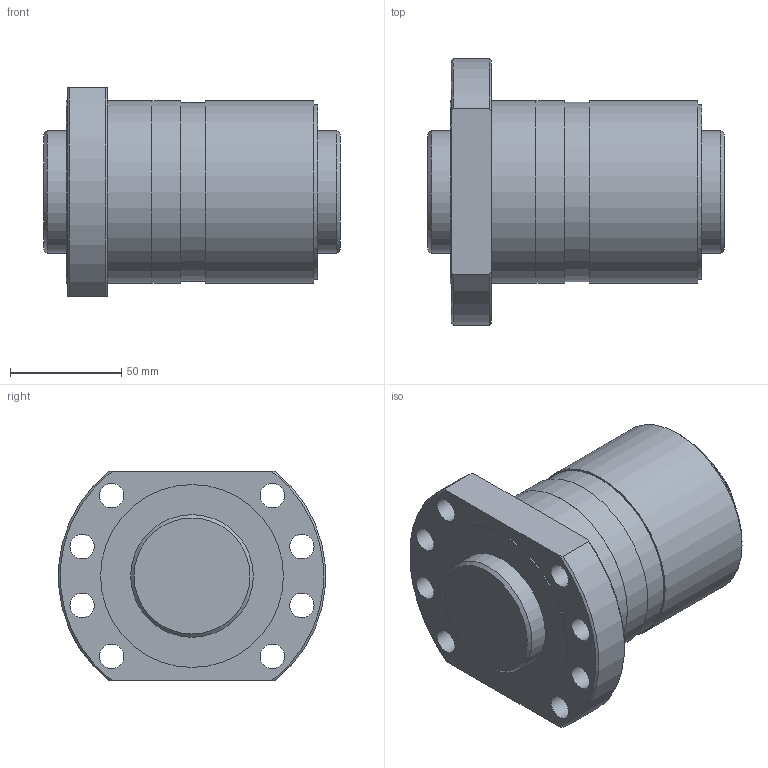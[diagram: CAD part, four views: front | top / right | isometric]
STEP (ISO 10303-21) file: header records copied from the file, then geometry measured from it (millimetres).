
FILE_DESCRIPTION(/* description */ ('STEP AP203'),/* implementation_level */ '2;1');
FILE_NAME(/* name */ 'SDAN5510VAX-4G0+133LC0(0G000)',/* time_stamp */ '2024-07-04T10:21:23+02:00',/* author */ ('License CC BY-ND 4.0'),/* organization */ ('CADENAS'),/* preprocessor_version */ 'ST-DEVELOPER v19.3',/* originating_system */ 'PARTsolutions',/* authorisation */ ' ');
FILE_SCHEMA (('CONFIG_CONTROL_DESIGN','FEATURE_BASED_PROCESS_PLANNING','TECHNICAL_DATA_PACKAGING','INTEGRATED_CNC_SCHEMA','PROCESS_PLANNING_SCHEMA'));
Length unit declared in the file: millimetre
Products named in the file (3): SDAN5510VAX-4G0+133LC0(0G000); 0SDAN5510VAX-40Shaft; SDAN5510VAX-4_nut
Assembly tree (2 placements, depth 2):
  SDAN5510VAX-4G0+133LC0(0G000)
    0SDAN5510VAX-40Shaft
    SDAN5510VAX-4_nut
Bounding box: 133 x 119.6 x 94 mm (x, y, z)
Volume: 710450.9 mm3; surface area: 97918.8 mm2
Topology: 2 solids, 2 shells, 41 faces, 95 edges, 65 vertices
Faces by surface type: cylinder 21, plane 13, cone 7
Full cylindrical faces by diameter (mm): 5.2 x1, 6.917 x1, 11 x8, 55 x2, 78.4 x1, 80 x1, 80.36 x1, 82 x4
Entity records: 1143 total; most frequent: CARTESIAN_POINT 208, DIRECTION 188, ORIENTED_EDGE 128, EDGE_LOOP 90, FACE_BOUND 90, AXIS2_PLACEMENT_3D 90, EDGE_CURVE 64, VERTEX_POINT 56
